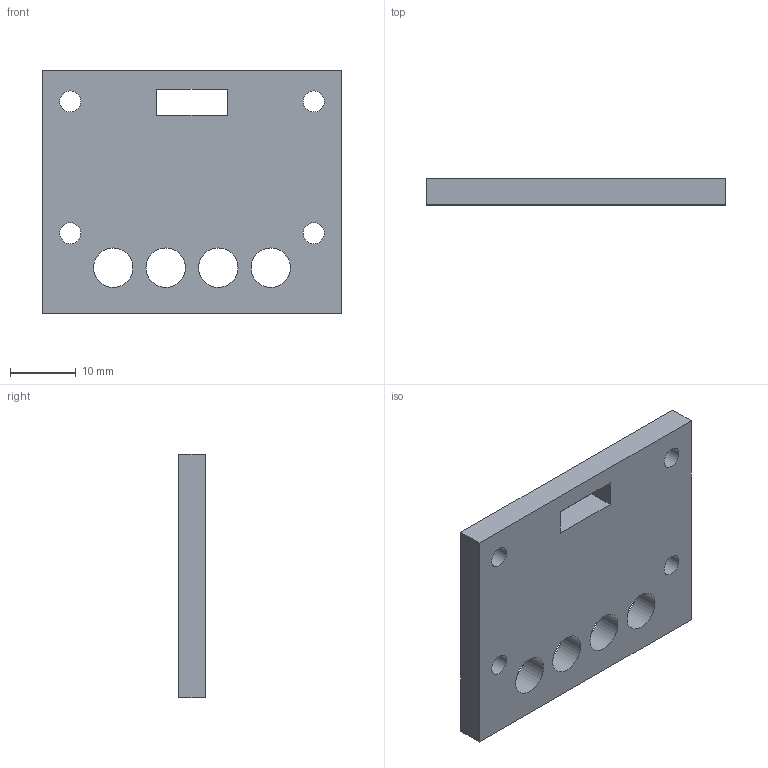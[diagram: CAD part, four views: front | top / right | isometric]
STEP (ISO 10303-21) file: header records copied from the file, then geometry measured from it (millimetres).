
FILE_DESCRIPTION(('FreeCAD Model'),'2;1');
FILE_NAME('Open CASCADE Shape Model','2024-06-26T11:40:24',('FreeCAD'),( 'FreeCAD'),'Open CASCADE STEP processor 7.6','FreeCAD','Unknown');
FILE_SCHEMA(('AUTOMOTIVE_DESIGN { 1 0 10303 214 1 1 1 1 }'));
Length unit declared in the file: millimetre
Products named in the file (1): Open CASCADE STEP translator 7.6 8
Bounding box: 45.5 x 4 x 37 mm (x, y, z)
Volume: 5982.4 mm3; surface area: 4230.9 mm2
Topology: 1 solids, 1 shells, 18 faces, 48 edges, 32 vertices
Faces by surface type: plane 10, cylinder 8
Full cylindrical faces by diameter (mm): 3.2 x4, 6 x4
Entity records: 614 total; most frequent: DIRECTION 102, CARTESIAN_POINT 99, ORIENTED_EDGE 96, EDGE_CURVE 48, FACE_BOUND 36, EDGE_LOOP 36, AXIS2_PLACEMENT_3D 35, VERTEX_POINT 32
